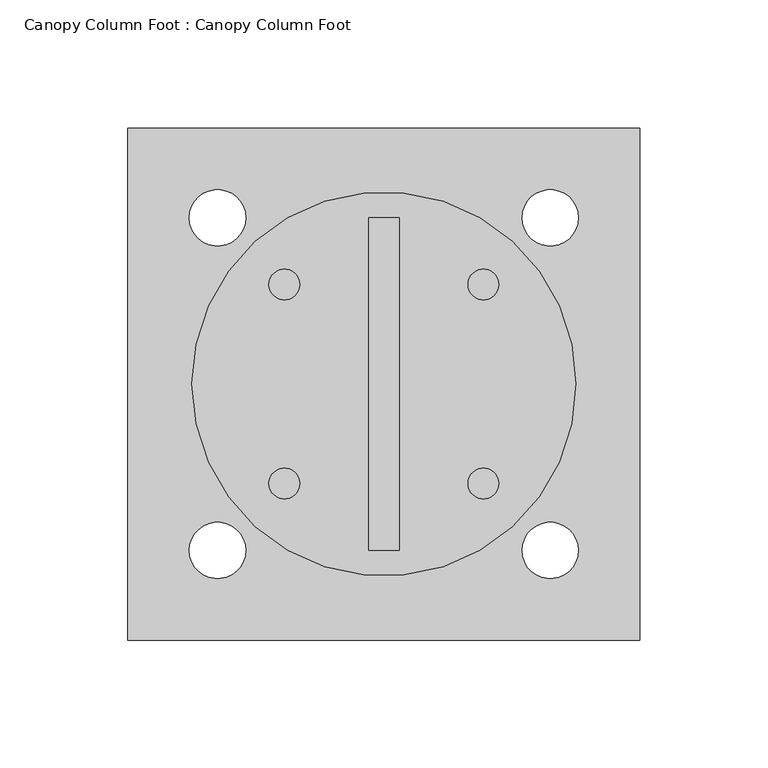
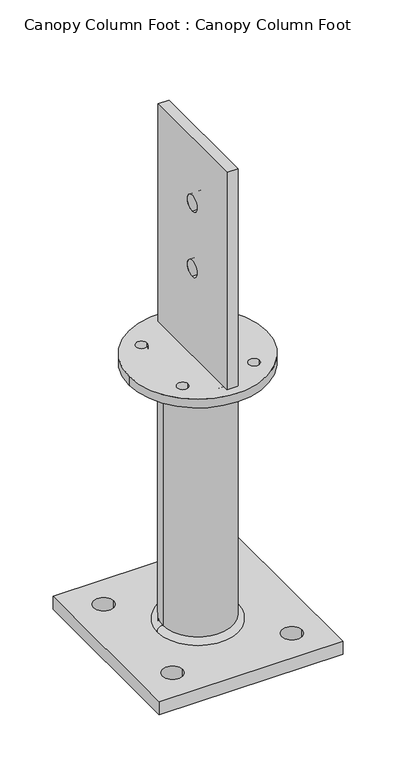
"""IFC4 building model written with IfcOpenShell, lengths in millimetres: proxy geometry, Canopy Column Foot : Canopy Column Foot."""

import ifcopenshell
import ifcopenshell.guid

model = None  # the IFC model being written
_history = None  # IfcOwnerHistory: only IFC2X3 demands one
_inside = {}  # id of a spatial element -> (the spatial element, [elements in it])
_under = {}  # id of a project, library or spatial element -> (it, [spatial elements below it])
_declared = {}  # id of a project -> (the project, [libraries it declares])
_typed = {}  # id of a type object -> (the type object, [elements of that type])
_made_of = {}  # id of a material, layer set ... -> (it, [elements and type objects made of it])


def new_model(schema):
    """Start an empty IFC model of exactly this schema.

    Asked for "IFC4X3", IfcOpenShell would pick the latest addendum, in which some entities
    have other attributes; the version numbers below select the first issue.
    IFC2X3 requires an IfcOwnerHistory on every rooted entity: one is made here for all.
    """
    global model, _history
    if schema == "IFC4X3":
        model = ifcopenshell.file(schema_version=(4, 3, 0, 0))
    else:
        model = ifcopenshell.file(schema=schema)
    _inside.clear()
    _under.clear()
    _declared.clear()
    _typed.clear()
    _made_of.clear()
    _history = None
    if model.schema == "IFC2X3":
        org = make("IfcOrganization", Name="unknown")
        user = make(
            "IfcPersonAndOrganization",
            ThePerson=make("IfcPerson", FamilyName="unknown"),
            TheOrganization=org,
        )
        app = make(
            "IfcApplication",
            ApplicationDeveloper=org,
            Version="unknown",
            ApplicationFullName="unknown",
            ApplicationIdentifier="unknown",
        )
        _history = make(
            "IfcOwnerHistory",
            OwningUser=user,
            OwningApplication=app,
            ChangeAction="ADDED",
            CreationDate=0,
        )
    return model


def make(cls, **values):
    """One entity of the class cls with the attributes given. An attribute that is None is left unset."""
    return model.create_entity(
        cls, **{name: value for name, value in values.items() if value is not None}
    )


def rooted(cls, **values):
    """An entity with a GlobalId (a new one), such as an element, a storey or a relation."""
    return make(cls, GlobalId=ifcopenshell.guid.new(), OwnerHistory=_history, **values)


def si_unit(unit_type, name, prefix=None):
    """IfcSIUnit, for example si_unit("LENGTHUNIT", "METRE", prefix="MILLI")."""
    return make("IfcSIUnit", UnitType=unit_type, Prefix=prefix, Name=name)


def assignment(units):
    """IfcUnitAssignment: the units of a project."""
    return None if units is None else make("IfcUnitAssignment", Units=units)


def point(xyz):
    """IfcCartesianPoint."""
    return None if xyz is None else make("IfcCartesianPoint", Coordinates=xyz)


def direction(xyz):
    """IfcDirection."""
    return None if xyz is None else make("IfcDirection", DirectionRatios=xyz)


def frame(location, z_axis=None, x_axis=None):
    """IfcAxis2Placement3D, a coordinate frame: its origin and axes. An axis left out is left unset."""
    return make(
        "IfcAxis2Placement3D",
        Location=point(location),
        Axis=direction(z_axis),
        RefDirection=direction(x_axis),
    )


def frame_2d(location, x_axis=None):
    """IfcAxis2Placement2D, a coordinate frame in the plane: its origin and x axis."""
    return make(
        "IfcAxis2Placement2D", Location=point(location), RefDirection=direction(x_axis)
    )


def origin():
    """The frame at (0, 0, 0) with its axes left unset."""
    return frame((0.0, 0.0, 0.0))


def origin_2d():
    """The frame at (0, 0) in the plane with its x axis left unset."""
    return frame_2d((0.0, 0.0))


def place(relative_to, where):
    """IfcLocalPlacement: puts the frame where relative to a parent placement (None: the world)."""
    return make(
        "IfcLocalPlacement", PlacementRelTo=relative_to, RelativePlacement=where
    )


def context(
    kind, dimensions, precision=None, world=None, true_north=None, identifier=None
):
    """IfcGeometricRepresentationContext, for example the 3D "Model" context."""
    return make(
        "IfcGeometricRepresentationContext",
        ContextIdentifier=identifier,
        ContextType=kind,
        CoordinateSpaceDimension=dimensions,
        Precision=precision,
        WorldCoordinateSystem=world,
        TrueNorth=true_north,
    )


def project(units=None, contexts=None):
    """IfcProject with its units and contexts."""
    return rooted(
        "IfcProject",
        Name="project",
        RepresentationContexts=contexts,
        UnitsInContext=assignment(units),
    )


def spatial(cls, under=None, at=None, **own):
    """A site, building, storey or space (cls), placed at a placement, below another one or the project."""
    s = rooted(cls, ObjectPlacement=at, **own)
    if under is not None:
        _under.setdefault(under.id(), (under, []))[1].append(s)
    return s


def polyline(points):
    """IfcPolyline through the points."""
    return make("IfcPolyline", Points=[point(p) for p in points])


def circle_curve(where, radius):
    """IfcCircle in the frame where."""
    return make("IfcCircle", Position=where, Radius=radius)


def ellipse_curve(where, semi_axis1, semi_axis2):
    """IfcEllipse in the frame where."""
    return make(
        "IfcEllipse", Position=where, SemiAxis1=semi_axis1, SemiAxis2=semi_axis2
    )


def trimmed(basis, trim1, trim2, sense, master):
    """IfcTrimmedCurve: the piece of a basis curve between two trims."""
    return make(
        "IfcTrimmedCurve",
        BasisCurve=basis,
        Trim1=trim1,
        Trim2=trim2,
        SenseAgreement=sense,
        MasterRepresentation=master,
    )


def segment(curve, same_sense, transition):
    """IfcCompositeCurveSegment."""
    return make(
        "IfcCompositeCurveSegment",
        Transition=transition,
        SameSense=same_sense,
        ParentCurve=curve,
    )


def composite_curve(segments, self_intersect=None):
    """IfcCompositeCurve: segments joined end to end."""
    return make("IfcCompositeCurve", Segments=segments, SelfIntersect=self_intersect)


def outline(outer, holes=None, kind="AREA"):
    """IfcArbitraryClosedProfileDef: a profile drawn as a closed curve; with holes, ...WithVoids."""
    if holes is None:
        return make("IfcArbitraryClosedProfileDef", ProfileType=kind, OuterCurve=outer)
    return make(
        "IfcArbitraryProfileDefWithVoids",
        ProfileType=kind,
        OuterCurve=outer,
        InnerCurves=holes,
    )


def extrude(swept, where, along, depth):
    """IfcExtrudedAreaSolid: the profile swept, set in the frame where, extruded along a direction by depth."""
    return make(
        "IfcExtrudedAreaSolid",
        SweptArea=swept,
        Position=where,
        ExtrudedDirection=direction(along),
        Depth=depth,
    )


def shape(context_of_items, identifier, shape_type, items):
    """IfcShapeRepresentation: the items that make up one representation, for example the "Body"."""
    return make(
        "IfcShapeRepresentation",
        ContextOfItems=context_of_items,
        RepresentationIdentifier=identifier,
        RepresentationType=shape_type,
        Items=items,
    )


def source(mapping_origin, context_of_items, identifier, shape_type, items):
    """IfcRepresentationMap: a shape defined once, which mapped items show again and again."""
    return make(
        "IfcRepresentationMap",
        MappingOrigin=mapping_origin,
        MappedRepresentation=shape(context_of_items, identifier, shape_type, items),
    )


def transform(
    local_origin,
    x_axis=None,
    y_axis=None,
    z_axis=None,
    scale=None,
    scale2=None,
    scale3=None,
    uniform=True,
):
    """IfcCartesianTransformationOperator3D, or its non-uniform kind. x_axis, y_axis, z_axis: its Axis1, 2, 3."""
    if uniform:
        return make(
            "IfcCartesianTransformationOperator3D",
            Axis1=direction(x_axis),
            Axis2=direction(y_axis),
            LocalOrigin=point(local_origin),
            Scale=scale,
            Axis3=direction(z_axis),
        )
    return make(
        "IfcCartesianTransformationOperator3DnonUniform",
        Axis1=direction(x_axis),
        Axis2=direction(y_axis),
        LocalOrigin=point(local_origin),
        Scale=scale,
        Axis3=direction(z_axis),
        Scale2=scale2,
        Scale3=scale3,
    )


def mapped(mapping_source, mapping_target):
    """IfcMappedItem: shows the shape of a source again, moved by a transform."""
    return make(
        "IfcMappedItem", MappingSource=mapping_source, MappingTarget=mapping_target
    )


def made_of(thing, what):
    """Note that an element or type object is made of a material, layer set ...; save() writes the relation."""
    if what is not None:
        _made_of.setdefault(what.id(), (what, []))[1].append(thing)
    return thing


def element(
    cls,
    number,
    at=None,
    inside=None,
    cuts=None,
    type_object=None,
    material=None,
    context=None,
    identifier="Body",
    shape_type=None,
    held_by="IfcProductDefinitionShape",
    body=None,
    shapes=None,
    **own,
):
    """One element of the class cls, such as IfcWall. Its Tag is "e" and its number.

    at: its placement. inside: the storey or other place that contains it. cuts: it is an
    opening in that element (IfcRelVoidsElement). A single representation is given by context,
    identifier, shape_type and body (its items); several are given by shapes. held_by: the class
    of the entity that holds the representations. save() writes the other relations.
    """
    e = rooted(cls, Tag="e%d" % number, ObjectPlacement=at, **own)
    if body is not None:
        shapes = [shape(context, identifier, shape_type, body)]
    if shapes is not None:
        e.Representation = make(held_by, Representations=shapes)
    if inside is not None:
        _inside.setdefault(inside.id(), (inside, []))[1].append(e)
    if cuts is not None:
        rooted(
            "IfcRelVoidsElement", RelatingBuildingElement=cuts, RelatedOpeningElement=e
        )
    if type_object is not None:
        _typed.setdefault(type_object.id(), (type_object, []))[1].append(e)
    return made_of(e, material)


def aggregate(whole, parts):
    """IfcRelAggregates: a whole, such as a stair, and the parts it consists of."""
    return rooted("IfcRelAggregates", RelatingObject=whole, RelatedObjects=parts)


def save(model, path):
    """Write the relations noted so far, then the file.

    IfcRelAggregates (storeys below a building ...), IfcRelContainedInSpatialStructure (elements
    in a storey), IfcRelDefinesByType, IfcRelAssociatesMaterial and IfcRelDeclares: one each for
    every whole, place, type object, material and project.
    """
    for whole, parts in _under.values():
        aggregate(whole, parts)
    for where, things in _inside.values():
        rooted(
            "IfcRelContainedInSpatialStructure",
            RelatedElements=things,
            RelatingStructure=where,
        )
    for kind, things in _typed.values():
        rooted("IfcRelDefinesByType", RelatedObjects=things, RelatingType=kind)
    for what, things in _made_of.values():
        rooted("IfcRelAssociatesMaterial", RelatedObjects=things, RelatingMaterial=what)
    for by, libraries in _declared.values():
        rooted("IfcRelDeclares", RelatingContext=by, RelatedDefinitions=libraries)
    model.write(path)


def plane_surface(at):
    """IfcPlane: the flat surface through the origin of the frame at, square to its z axis."""
    return make("IfcPlane", Position=at)


def revolved_surface(curve, axis_point, axis_direction):
    """IfcSurfaceOfRevolution: the curve turned about the line through axis_point along axis_direction."""
    return make(
        "IfcSurfaceOfRevolution",
        SweptCurve=make("IfcArbitraryOpenProfileDef", ProfileType="CURVE", Curve=curve),
        AxisPosition=make("IfcAxis1Placement", Location=point(axis_point), Axis=direction(axis_direction)),
    )


def advanced_brep(points, edges, surfaces, faces):
    """IfcAdvancedBrep: a solid bounded by faces that lie on surfaces and meet in shared edges.

    An edge is (start, end): straight between two places in points (the first is 0);
    or (start, end, curve); or (start, end, curve, False) where it runs against its curve.
    A face is (place in surfaces, loops), or (place, loops, False) where it looks against
    its surface's normal. A loop lists edges by number (the first is 1), with a minus sign
    where the edge is run from its end to its start. The first loop is the outer one.
    """
    corners = [point(p) for p in points]
    vertices = [make("IfcVertexPoint", VertexGeometry=c) for c in corners]
    made = []
    for start, end, *more in edges:
        made.append(
            make(
                "IfcEdgeCurve",
                EdgeStart=vertices[start],
                EdgeEnd=vertices[end],
                EdgeGeometry=more[0] if more else make("IfcPolyline", Points=[corners[start], corners[end]]),
                SameSense=more[1] if len(more) > 1 else True,
            )
        )
    hull = []
    for where, loops, *sense in faces:
        bounds = []
        for j, loop in enumerate(loops):
            ring = [make("IfcOrientedEdge", EdgeElement=made[abs(k) - 1], Orientation=k > 0) for k in loop]
            bounds.append(
                make(
                    "IfcFaceOuterBound" if j == 0 else "IfcFaceBound",
                    Bound=make("IfcEdgeLoop", EdgeList=ring),
                    Orientation=True,
                )
            )
        hull.append(make("IfcAdvancedFace", Bounds=bounds, FaceSurface=surfaces[where], SameSense=sense[0] if sense else True))
    return make("IfcAdvancedBrep", Outer=make("IfcClosedShell", CfsFaces=hull))


def canopy_column_foot_canopy_column_foot_2fd377a7(model_context):
    return source(origin(), model_context, "Body", "SolidModel", [
        extrude(outline(composite_curve([segment(trimmed(circle_curve(origin_2d(), 38.05), [point((-38.05, 0.0))], [point((38.05, 0.0))], False, "CARTESIAN"), True, "CONTINUOUS"), segment(trimmed(circle_curve(origin_2d(), 38.05), [point((38.05, 0.0))], [point((-38.05, 0.0))], False, "CARTESIAN"), True, "CONTINUOUS")], self_intersect=False), holes=[composite_curve([segment(trimmed(circle_curve(origin_2d(), 33.05), [point((-33.05, 0.0))], [point((33.05, 0.0))], True, "CARTESIAN"), True, "CONTINUOUS"), segment(trimmed(circle_curve(origin_2d(), 33.05), [point((33.05, 0.0))], [point((-33.05, 0.0))], True, "CARTESIAN"), True, "CONTINUOUS")], self_intersect=False)]), frame((0.0, 0.0, 40.0), z_axis=(0.0, 0.0, 1.0), x_axis=(1.0, 0.0, 0.0)), (0.0, 0.0, 1.0), 295.0),
        extrude(outline(polyline([(-65.0, 595.0), (65.0, 595.0), (65.0, 345.0), (-65.0, 345.0), (-65.0, 595.0)]), holes=[composite_curve([segment(trimmed(circle_curve(frame_2d((0.0, 445.0)), 8.9998703), [point((0.0, 453.9998703))], [point((0.0, 436.0001297))], True, "CARTESIAN"), True, "CONTINUOUS"), segment(trimmed(circle_curve(frame_2d((0.0, 445.0)), 8.9998703), [point((0.0, 436.0001297))], [point((0.0, 453.9998703))], True, "CARTESIAN"), True, "CONTINUOUS")], self_intersect=False), composite_curve([segment(trimmed(circle_curve(frame_2d((0.0, 520.0)), 8.9998703), [point((0.0, 528.9998703))], [point((0.0, 511.0001297))], True, "CARTESIAN"), True, "CONTINUOUS"), segment(trimmed(circle_curve(frame_2d((0.0, 520.0)), 8.9998703), [point((0.0, 511.0001297))], [point((0.0, 528.9998703))], True, "CARTESIAN"), True, "CONTINUOUS")], self_intersect=False)]), frame((-6.0, 0.0, 0.0), z_axis=(1.0, 0.0, 0.0), x_axis=(0.0, 1.0, 0.0)), (0.0, 0.0, 1.0), 12.0),
        advanced_brep(
        [(-38.05, 0.0, 335.0), (38.05, 0.0, 335.0), (38.05, 0.0, 329.0), (-38.05, 0.0, 329.0), (44.05, 0.0, 335.0), (-44.05, 0.0, 335.0)],
        [
            (0, 1, circle_curve(frame((0.0, 0.0, 335.0), z_axis=(0.0, 0.0, 1.0), x_axis=(1.0, 0.0, 0.0)), 38.05)),
            (1, 2),
            (2, 3, circle_curve(frame((0.0, 0.0, 329.0), z_axis=(0.0, 0.0, -1.0), x_axis=(1.0, 0.0, 0.0)), 38.05)),
            (3, 0),
            (1, 0, circle_curve(frame((0.0, 0.0, 335.0), z_axis=(0.0, 0.0, 1.0), x_axis=(1.0, 0.0, 0.0)), 38.05)),
            (3, 2, circle_curve(frame((0.0, 0.0, 329.0), z_axis=(0.0, 0.0, -1.0), x_axis=(1.0, 0.0, 0.0)), 38.05)),
            (2, 4, circle_curve(frame((38.05, 0.0, 335.0), z_axis=(0.0, -1.0, 0.0), x_axis=(-1.0, 0.0, 0.0)), 6.0)),
            (4, 5, circle_curve(frame((0.0, 0.0, 335.0), z_axis=(0.0, 0.0, -1.0), x_axis=(1.0, 0.0, 0.0)), 44.05)),
            (5, 3, circle_curve(frame((-38.05, 0.0, 335.0), z_axis=(0.0, -1.0, 0.0), x_axis=(1.0, 0.0, 0.0)), 6.0)),
            (5, 4, circle_curve(frame((0.0, 0.0, 335.0), z_axis=(0.0, 0.0, -1.0), x_axis=(1.0, 0.0, 0.0)), 44.05)),
            (4, 1),
            (0, 5),
        ],
        [
            revolved_surface(polyline([(38.05, 0.0, 329.0), (38.05, 0.0, 335.0)]), (0.0, 0.0, 40.0), (0.0, 0.0, -1.0)),
            revolved_surface(trimmed(ellipse_curve(frame((38.05, 0.0, 335.0), z_axis=(0.0, 1.0, 0.0), x_axis=(-1.0, 0.0, 0.0)), 6.0, 6.0), [point((44.05, 0.0, 335.0))], [point((38.05, 0.0, 329.0))], True, "CARTESIAN"), (0.0, 0.0, 40.0), (0.0, 0.0, -1.0)),
            plane_surface(frame((0.0, 0.0, 335.0), z_axis=(0.0, 0.0, 1.0), x_axis=(1.0, 0.0, 0.0))),
        ],
        [
            (0, [[1, 2, 3, 4]]),
            (0, [[5, -4, 6, -2]]),
            (1, [[-3, 7, 8, 9]]),
            (1, [[-6, -9, 10, -7]]),
            (2, [[-8, 11, -1, 12]]),
            (2, [[-10, -12, -5, -11]]),
        ],
    ),
        extrude(outline(composite_curve([segment(trimmed(circle_curve(origin_2d(), 75.0), [point((75.0, 0.0))], [point((-75.0, 0.0))], False, "CARTESIAN"), True, "CONTINUOUS"), segment(trimmed(circle_curve(origin_2d(), 75.0), [point((-75.0, 0.0))], [point((75.0, 0.0))], False, "CARTESIAN"), True, "CONTINUOUS")], self_intersect=False), holes=[composite_curve([segment(trimmed(circle_curve(frame_2d((-38.890873, 38.890873)), 6.0), [point((-32.890873, 38.890873))], [point((-44.890873, 38.890873))], True, "CARTESIAN"), True, "CONTINUOUS"), segment(trimmed(circle_curve(frame_2d((-38.890873, 38.890873)), 6.0), [point((-44.890873, 38.890873))], [point((-32.890873, 38.890873))], True, "CARTESIAN"), True, "CONTINUOUS")], self_intersect=False), composite_curve([segment(trimmed(circle_curve(frame_2d((38.890873, 38.890873)), 6.0), [point((44.890873, 38.890873))], [point((32.890873, 38.890873))], True, "CARTESIAN"), True, "CONTINUOUS"), segment(trimmed(circle_curve(frame_2d((38.890873, 38.890873)), 6.0), [point((32.890873, 38.890873))], [point((44.890873, 38.890873))], True, "CARTESIAN"), True, "CONTINUOUS")], self_intersect=False), composite_curve([segment(trimmed(circle_curve(frame_2d((-38.890873, -38.890873)), 6.0), [point((-32.890873, -38.890873))], [point((-44.890873, -38.890873))], True, "CARTESIAN"), True, "CONTINUOUS"), segment(trimmed(circle_curve(frame_2d((-38.890873, -38.890873)), 6.0), [point((-44.890873, -38.890873))], [point((-32.890873, -38.890873))], True, "CARTESIAN"), True, "CONTINUOUS")], self_intersect=False), composite_curve([segment(trimmed(circle_curve(frame_2d((38.890873, -38.890873)), 6.0), [point((44.890873, -38.890873))], [point((32.890873, -38.890873))], True, "CARTESIAN"), True, "CONTINUOUS"), segment(trimmed(circle_curve(frame_2d((38.890873, -38.890873)), 6.0), [point((32.890873, -38.890873))], [point((44.890873, -38.890873))], True, "CARTESIAN"), True, "CONTINUOUS")], self_intersect=False)]), frame((0.0, 0.0, 335.0), z_axis=(0.0, 0.0, 1.0), x_axis=(1.0, 0.0, 0.0)), (0.0, 0.0, 1.0), 10.0),
        advanced_brep(
        [(-38.05, 0.0, 46.0), (38.05, 0.0, 46.0), (38.05, 0.0, 40.0), (-38.05, 0.0, 40.0), (-44.05, 0.0, 40.0), (44.05, 0.0, 40.0)],
        [
            (0, 1, circle_curve(frame((0.0, 0.0, 46.0), z_axis=(0.0, 0.0, 1.0), x_axis=(1.0, 0.0, 0.0)), 38.05)),
            (1, 2),
            (2, 3, circle_curve(frame((0.0, 0.0, 40.0), z_axis=(0.0, 0.0, -1.0), x_axis=(1.0, 0.0, 0.0)), 38.05)),
            (3, 0),
            (1, 0, circle_curve(frame((0.0, 0.0, 46.0), z_axis=(0.0, 0.0, 1.0), x_axis=(1.0, 0.0, 0.0)), 38.05)),
            (3, 2, circle_curve(frame((0.0, 0.0, 40.0), z_axis=(0.0, 0.0, -1.0), x_axis=(1.0, 0.0, 0.0)), 38.05)),
            (4, 5, circle_curve(frame((0.0, 0.0, 40.0), z_axis=(0.0, 0.0, 1.0), x_axis=(1.0, 0.0, 0.0)), 44.05)),
            (5, 1, circle_curve(frame((38.05, 0.0, 40.0), z_axis=(0.0, -1.0, 0.0), x_axis=(-1.0, 0.0, 0.0)), 6.0)),
            (0, 4, circle_curve(frame((-38.05, 0.0, 40.0), z_axis=(0.0, -1.0, 0.0), x_axis=(1.0, 0.0, 0.0)), 6.0)),
            (5, 4, circle_curve(frame((0.0, 0.0, 40.0), z_axis=(0.0, 0.0, 1.0), x_axis=(1.0, 0.0, 0.0)), 44.05)),
            (2, 5),
            (4, 3),
        ],
        [
            revolved_surface(polyline([(38.05, 0.0, 40.0), (38.05, 0.0, 46.0)]), (0.0, 0.0, 335.0), (0.0, 0.0, -1.0)),
            revolved_surface(trimmed(ellipse_curve(frame((38.05, 0.0, 40.0), z_axis=(0.0, 1.0, 0.0), x_axis=(-1.0, 0.0, 0.0)), 6.0, 6.0), [point((38.05, 0.0, 46.0))], [point((44.05, 0.0, 40.0))], True, "CARTESIAN"), (0.0, 0.0, 335.0), (0.0, 0.0, -1.0)),
            plane_surface(frame((0.0, 0.0, 40.0), z_axis=(0.0, 0.0, -1.0), x_axis=(1.0, 0.0, 0.0))),
        ],
        [
            (0, [[1, 2, 3, 4]]),
            (0, [[5, -4, 6, -2]]),
            (1, [[7, 8, -1, 9]]),
            (1, [[10, -9, -5, -8]]),
            (2, [[-3, 11, -7, 12]]),
            (2, [[-6, -12, -10, -11]]),
        ],
    ),
        extrude(outline(polyline([(100.0, -100.0), (-100.0, -100.0), (-100.0, 100.0), (100.0, 100.0), (100.0, -100.0)]), holes=[composite_curve([segment(trimmed(circle_curve(frame_2d((65.0, 65.0)), 11.0), [point((54.0, 65.0))], [point((76.0, 65.0))], True, "CARTESIAN"), True, "CONTINUOUS"), segment(trimmed(circle_curve(frame_2d((65.0, 65.0)), 11.0), [point((76.0, 65.0))], [point((54.0, 65.0))], True, "CARTESIAN"), True, "CONTINUOUS")], self_intersect=False), composite_curve([segment(trimmed(circle_curve(frame_2d((-65.0, -65.0)), 11.0), [point((-76.0, -65.0))], [point((-54.0, -65.0))], True, "CARTESIAN"), True, "CONTINUOUS"), segment(trimmed(circle_curve(frame_2d((-65.0, -65.0)), 11.0), [point((-54.0, -65.0))], [point((-76.0, -65.0))], True, "CARTESIAN"), True, "CONTINUOUS")], self_intersect=False), composite_curve([segment(trimmed(circle_curve(frame_2d((-65.0, 65.0)), 11.0), [point((-76.0, 65.0))], [point((-54.0, 65.0))], True, "CARTESIAN"), True, "CONTINUOUS"), segment(trimmed(circle_curve(frame_2d((-65.0, 65.0)), 11.0), [point((-54.0, 65.0))], [point((-76.0, 65.0))], True, "CARTESIAN"), True, "CONTINUOUS")], self_intersect=False), composite_curve([segment(trimmed(circle_curve(frame_2d((65.0, -65.0)), 11.0), [point((54.0, -65.0))], [point((76.0, -65.0))], True, "CARTESIAN"), True, "CONTINUOUS"), segment(trimmed(circle_curve(frame_2d((65.0, -65.0)), 11.0), [point((76.0, -65.0))], [point((54.0, -65.0))], True, "CARTESIAN"), True, "CONTINUOUS")], self_intersect=False)]), frame((0.0, 0.0, 25.0), z_axis=(0.0, 0.0, 1.0), x_axis=(1.0, 0.0, 0.0)), (0.0, 0.0, 1.0), 15.0),
    ])


if __name__ == "__main__":
    model = new_model("IFC4")
    model_context = context("Model", 3, world=origin())
    ifc_project = project(units=[si_unit("LENGTHUNIT", "METRE", prefix="MILLI")], contexts=[model_context])
    site = spatial("IfcSite", under=ifc_project)
    building = spatial("IfcBuilding", under=site)
    placement = place(None, origin())
    canopy_column_foot_canopy_column_foot_shape = canopy_column_foot_canopy_column_foot_2fd377a7(model_context)
    element("IfcBuildingElementProxy", 1, Name="Canopy Column Foot : Canopy Column Foot", ObjectType="Canopy Column Foot : Canopy Column Foot", at=placement, inside=building, context=model_context, shape_type="MappedRepresentation", body=[
        mapped(canopy_column_foot_canopy_column_foot_shape, transform((0.0, 0.0, 0.0), x_axis=(1.0, 0.0, 0.0), y_axis=(0.0, 1.0, 0.0), z_axis=(0.0, 0.0, 1.0))),
    ])
    save(model, "model.ifc")
